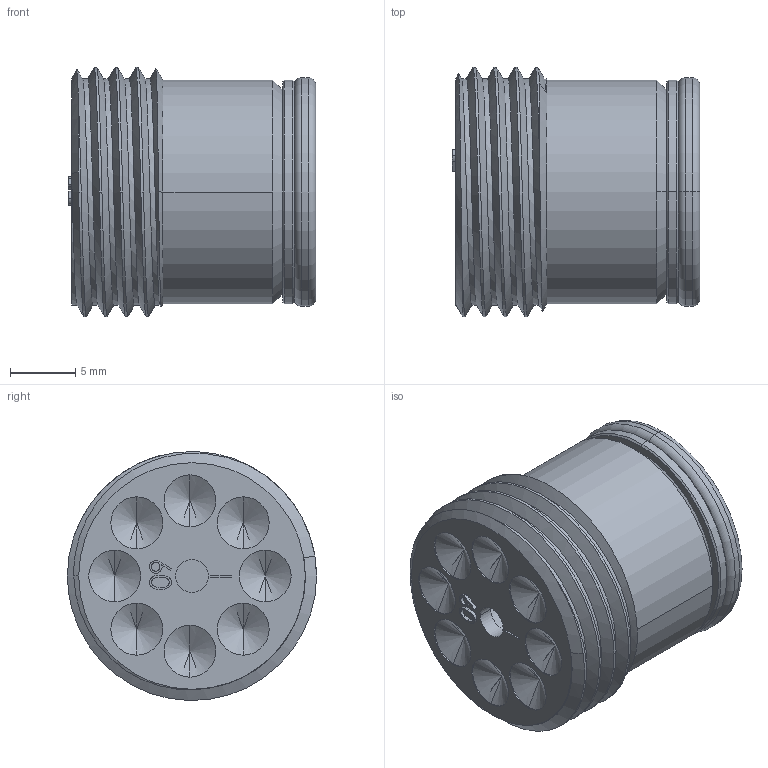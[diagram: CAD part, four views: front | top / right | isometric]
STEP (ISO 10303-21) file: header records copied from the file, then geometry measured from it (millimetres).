
FILE_DESCRIPTION (( 'STEP AP214' ), '1' );
FILE_NAME ('ICT-B-08-N-60.STEP', '2026-02-12T16:01:35', ( '' ), ( '' ), 'SwSTEP 2.0', 'SolidWorks 2025', '' );
FILE_SCHEMA (( 'AUTOMOTIVE_DESIGN' ));
Length unit declared in the file: inch
Products named in the file (1): ICT-B-08-N-60
Bounding box: 18.92 x 19.05 x 19.04 mm (x, y, z)
Volume: 3076.8 mm3; surface area: 2877.3 mm2
Topology: 1 solids, 3 shells, 153 faces, 362 edges, 215 vertices
Faces by surface type: cylinder 47, cone 44, plane 23, bspline 21, torus 16, sphere 2
Entity records: 6755 total; most frequent: CARTESIAN_POINT 3418, DIRECTION 687, ORIENTED_EDGE 682, EDGE_CURVE 341, AXIS2_PLACEMENT_3D 279, VERTEX_POINT 212, EDGE_LOOP 175, ADVANCED_FACE 153
